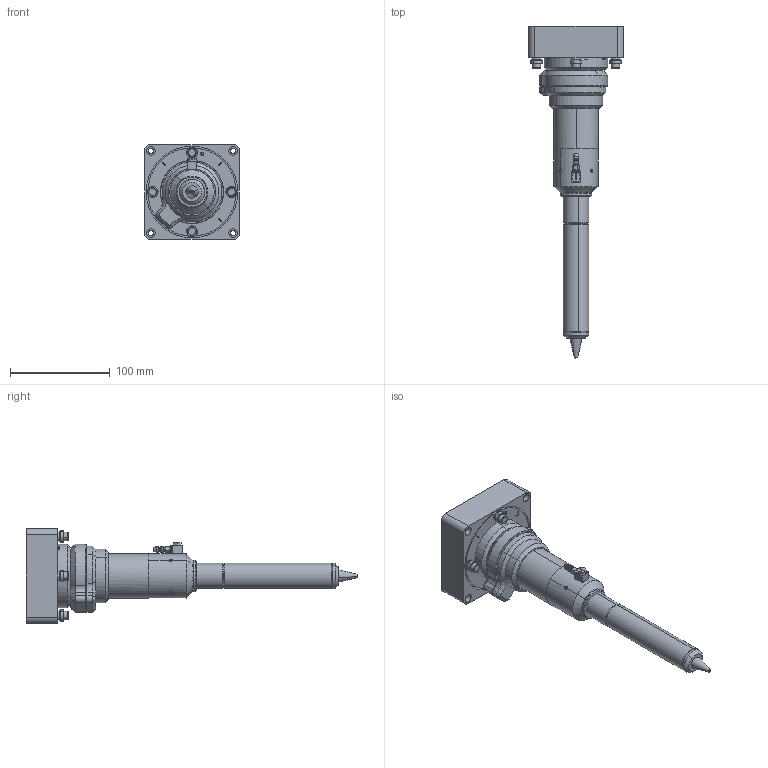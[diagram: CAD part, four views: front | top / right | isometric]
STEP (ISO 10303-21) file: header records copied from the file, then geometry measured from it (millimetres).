
FILE_DESCRIPTION (( 'STEP AP214' ), '1' );
FILE_NAME ('ILH-19-25-191.STEP', '2018-05-15T16:14:12', ( '' ), ( '' ), 'SwSTEP 2.0', 'SolidWorks 2018', '' );
FILE_SCHEMA (( 'AUTOMOTIVE_DESIGN' ));
Length unit declared in the file: inch
Products named in the file (1): ILH-19-25-191
Bounding box: 95.25 x 333.53 x 95.25 mm (x, y, z)
Volume: 629092.3 mm3; surface area: 81311.1 mm2
Topology: 1 solids, 1 shells, 447 faces, 994 edges, 575 vertices
Faces by surface type: cylinder 150, plane 113, torus 71, cone 67, bspline 24, sphere 22
Entity records: 21501 total; most frequent: CARTESIAN_POINT 11481, DIRECTION 2278, ORIENTED_EDGE 1936, EDGE_CURVE 968, AXIS2_PLACEMENT_3D 964, VERTEX_POINT 573, CIRCLE 540, EDGE_LOOP 531
